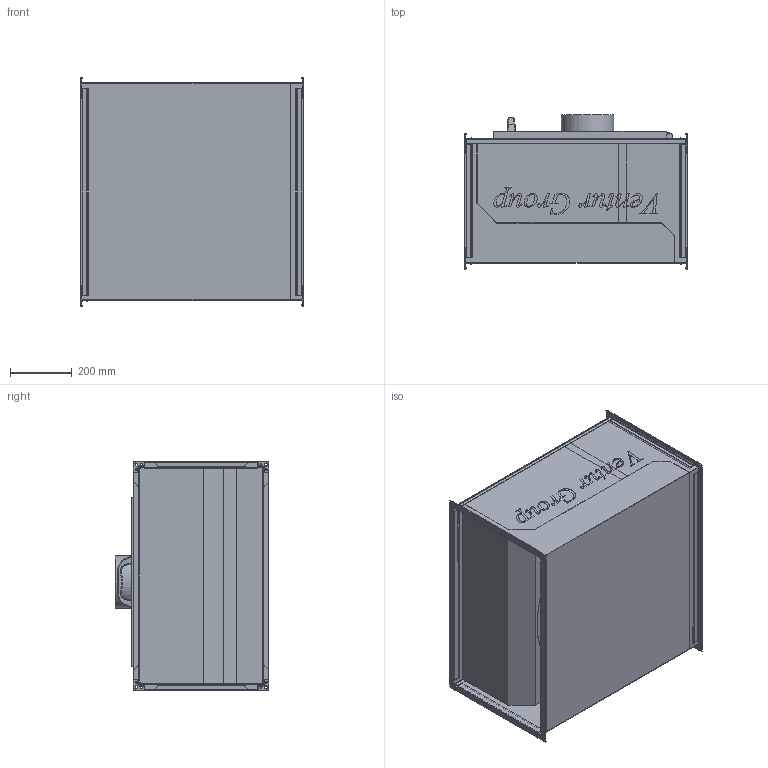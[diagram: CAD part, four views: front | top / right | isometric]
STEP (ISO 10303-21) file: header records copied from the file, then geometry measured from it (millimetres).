
FILE_DESCRIPTION(/* description */ (''),/* implementation_level */ '2;1');
FILE_NAME(/* name */ 'C:\Users\M.Janczarek\Documents\Modele uproszczone\IBF EC\IBF_EC_450T 41010165\IBF_EC_450T 41010165\IBF_EC_450T 41010165.stp',/* time_stamp */ '2018-04-03T10:32:39+02:00',/* author */ ('M.Janczarek'),/* organization */ (''),/* preprocessor_version */ 'ST-DEVELOPER v16.5',/* originating_system */ 'Autodesk Inventor 2017',/* authorisation */ '');
FILE_SCHEMA (('AUTOMOTIVE_DESIGN { 1 0 10303 214 3 1 1 }'));
Products named in the file (1): IBF_EC_450T 41010165
Bounding box: 723.6 x 499.49 x 741.97 mm (x, y, z)
Volume: 49408736.4 mm3; surface area: 5935484.9 mm2
Topology: 1 solids, 1 shells, 1716 faces, 4927 edges, 3167 vertices
Faces by surface type: plane 799, cylinder 480, bspline 331, torus 64, cone 26, sphere 16
Full cylindrical faces by diameter (mm): 6 x16, 9 x8, 170 x1, 300 x1, 470.018 x1
Entity records: 61533 total; most frequent: CARTESIAN_POINT 16633, ORIENTED_EDGE 9768, DIRECTION 8170, EDGE_CURVE 4884, VERTEX_POINT 3167, LINE 3062, VECTOR 3062, AXIS2_PLACEMENT_3D 2554
